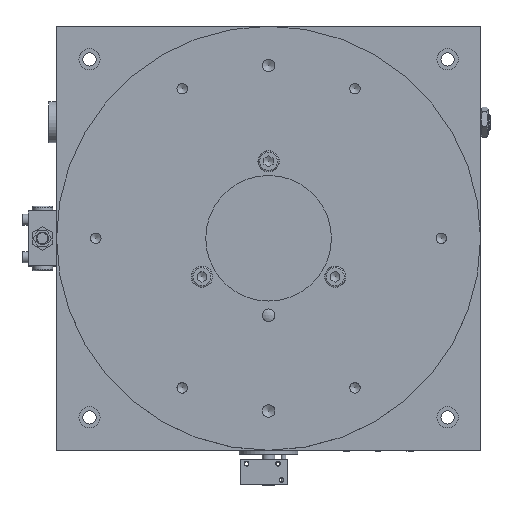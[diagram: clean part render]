
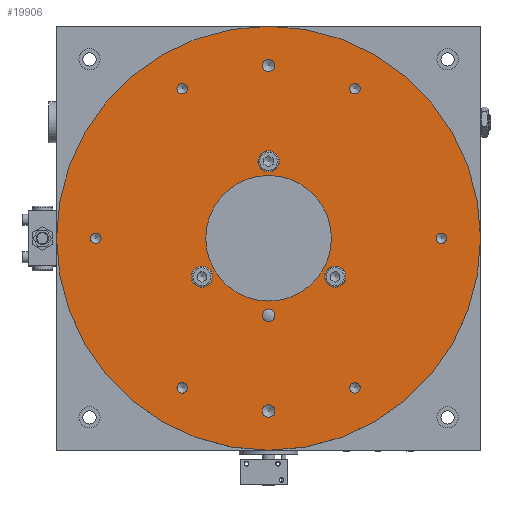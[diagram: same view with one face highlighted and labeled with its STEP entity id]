
A CAD part, top view. The second image highlights one B-rep face of the part: STEP entity #19906.
In plain terms, the highlighted planar face has unit normal (0, 0, 1).
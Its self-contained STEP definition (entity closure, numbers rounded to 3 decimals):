
#3087=PLANE('',#21781);
#4044=FACE_BOUND('',#6521,.T.);
#4045=FACE_BOUND('',#6522,.T.);
#4046=FACE_BOUND('',#6523,.T.);
#4047=FACE_BOUND('',#6524,.T.);
#4048=FACE_BOUND('',#6525,.T.);
#4049=FACE_BOUND('',#6526,.T.);
#4050=FACE_BOUND('',#6527,.T.);
#4051=FACE_BOUND('',#6528,.T.);
#4052=FACE_BOUND('',#6529,.T.);
#4053=FACE_BOUND('',#6530,.T.);
#4054=FACE_BOUND('',#6531,.T.);
#4055=FACE_BOUND('',#6532,.T.);
#4056=FACE_BOUND('',#6533,.T.);
#4892=FACE_OUTER_BOUND('',#6520,.T.);
#6520=EDGE_LOOP('',(#14547));
#6521=EDGE_LOOP('',(#14548));
#6522=EDGE_LOOP('',(#14549));
#6523=EDGE_LOOP('',(#14550));
#6524=EDGE_LOOP('',(#14551));
#6525=EDGE_LOOP('',(#14552));
#6526=EDGE_LOOP('',(#14553));
#6527=EDGE_LOOP('',(#14554));
#6528=EDGE_LOOP('',(#14555));
#6529=EDGE_LOOP('',(#14556));
#6530=EDGE_LOOP('',(#14557));
#6531=EDGE_LOOP('',(#14558));
#6532=EDGE_LOOP('',(#14559));
#6533=EDGE_LOOP('',(#14560));
#8147=CIRCLE('',#21723,3.324);
#8149=CIRCLE('',#21727,3.324);
#8151=CIRCLE('',#21731,3.324);
#8153=CIRCLE('',#21735,3.324);
#8155=CIRCLE('',#21739,3.324);
#8157=CIRCLE('',#21743,3.324);
#8159=CIRCLE('',#21747,4.);
#8161=CIRCLE('',#21751,4.);
#8164=CIRCLE('',#21756,6.75);
#8168=CIRCLE('',#21763,6.75);
#8172=CIRCLE('',#21770,6.75);
#8175=CIRCLE('',#21775,4.);
#8178=CIRCLE('',#21780,40.);
#8179=CIRCLE('',#21782,135.);
#9335=VERTEX_POINT('',#31733);
#9337=VERTEX_POINT('',#31739);
#9339=VERTEX_POINT('',#31745);
#9341=VERTEX_POINT('',#31751);
#9343=VERTEX_POINT('',#31757);
#9345=VERTEX_POINT('',#31763);
#9347=VERTEX_POINT('',#31769);
#9349=VERTEX_POINT('',#31775);
#9352=VERTEX_POINT('',#31783);
#9356=VERTEX_POINT('',#31794);
#9360=VERTEX_POINT('',#31805);
#9363=VERTEX_POINT('',#31813);
#9366=VERTEX_POINT('',#31821);
#9367=VERTEX_POINT('',#31824);
#11323=EDGE_CURVE('',#9335,#9335,#8147,.T.);
#11325=EDGE_CURVE('',#9337,#9337,#8149,.T.);
#11327=EDGE_CURVE('',#9339,#9339,#8151,.T.);
#11329=EDGE_CURVE('',#9341,#9341,#8153,.T.);
#11331=EDGE_CURVE('',#9343,#9343,#8155,.T.);
#11333=EDGE_CURVE('',#9345,#9345,#8157,.T.);
#11335=EDGE_CURVE('',#9347,#9347,#8159,.T.);
#11337=EDGE_CURVE('',#9349,#9349,#8161,.T.);
#11340=EDGE_CURVE('',#9352,#9352,#8164,.T.);
#11344=EDGE_CURVE('',#9356,#9356,#8168,.T.);
#11348=EDGE_CURVE('',#9360,#9360,#8172,.T.);
#11351=EDGE_CURVE('',#9363,#9363,#8175,.T.);
#11354=EDGE_CURVE('',#9366,#9366,#8178,.T.);
#11355=EDGE_CURVE('',#9367,#9367,#8179,.T.);
#14547=ORIENTED_EDGE('',*,*,#11355,.F.);
#14548=ORIENTED_EDGE('',*,*,#11323,.T.);
#14549=ORIENTED_EDGE('',*,*,#11325,.T.);
#14550=ORIENTED_EDGE('',*,*,#11327,.T.);
#14551=ORIENTED_EDGE('',*,*,#11329,.T.);
#14552=ORIENTED_EDGE('',*,*,#11331,.T.);
#14553=ORIENTED_EDGE('',*,*,#11333,.T.);
#14554=ORIENTED_EDGE('',*,*,#11335,.T.);
#14555=ORIENTED_EDGE('',*,*,#11337,.T.);
#14556=ORIENTED_EDGE('',*,*,#11340,.T.);
#14557=ORIENTED_EDGE('',*,*,#11344,.T.);
#14558=ORIENTED_EDGE('',*,*,#11348,.T.);
#14559=ORIENTED_EDGE('',*,*,#11351,.T.);
#14560=ORIENTED_EDGE('',*,*,#11354,.T.);
#19906=ADVANCED_FACE('',(#4892,#4044,#4045,#4046,#4047,#4048,#4049,#4050,
#4051,#4052,#4053,#4054,#4055,#4056),#3087,.T.);
#21723=AXIS2_PLACEMENT_3D('',#31734,#25009,#25010);
#21727=AXIS2_PLACEMENT_3D('',#31740,#25017,#25018);
#21731=AXIS2_PLACEMENT_3D('',#31746,#25025,#25026);
#21735=AXIS2_PLACEMENT_3D('',#31752,#25033,#25034);
#21739=AXIS2_PLACEMENT_3D('',#31758,#25041,#25042);
#21743=AXIS2_PLACEMENT_3D('',#31764,#25049,#25050);
#21747=AXIS2_PLACEMENT_3D('',#31770,#25057,#25058);
#21751=AXIS2_PLACEMENT_3D('',#31776,#25065,#25066);
#21756=AXIS2_PLACEMENT_3D('',#31784,#25075,#25076);
#21763=AXIS2_PLACEMENT_3D('',#31795,#25089,#25090);
#21770=AXIS2_PLACEMENT_3D('',#31806,#25103,#25104);
#21775=AXIS2_PLACEMENT_3D('',#31814,#25113,#25114);
#21780=AXIS2_PLACEMENT_3D('',#31822,#25123,#25124);
#21781=AXIS2_PLACEMENT_3D('',#31823,#25125,#25126);
#21782=AXIS2_PLACEMENT_3D('',#31825,#25127,#25128);
#25009=DIRECTION('center_axis',(0.,0.,
-1.));
#25010=DIRECTION('ref_axis',(1.,0.,0.));
#25017=DIRECTION('center_axis',(0.,0.,
-1.));
#25018=DIRECTION('ref_axis',(1.,0.,0.));
#25025=DIRECTION('center_axis',(0.,0.,
-1.));
#25026=DIRECTION('ref_axis',(1.,0.,0.));
#25033=DIRECTION('center_axis',(0.,0.,
-1.));
#25034=DIRECTION('ref_axis',(1.,0.,0.));
#25041=DIRECTION('center_axis',(0.,0.,
-1.));
#25042=DIRECTION('ref_axis',(1.,0.,0.));
#25049=DIRECTION('center_axis',(0.,0.,
-1.));
#25050=DIRECTION('ref_axis',(1.,0.,0.));
#25057=DIRECTION('center_axis',(0.,0.,
-1.));
#25058=DIRECTION('ref_axis',(1.,0.,0.));
#25065=DIRECTION('center_axis',(0.,0.,
-1.));
#25066=DIRECTION('ref_axis',(1.,0.,0.));
#25075=DIRECTION('center_axis',(0.,0.,
-1.));
#25076=DIRECTION('ref_axis',(1.,0.,0.));
#25089=DIRECTION('center_axis',(0.,0.,
-1.));
#25090=DIRECTION('ref_axis',(1.,0.,0.));
#25103=DIRECTION('center_axis',(0.,0.,
-1.));
#25104=DIRECTION('ref_axis',(1.,0.,0.));
#25113=DIRECTION('center_axis',(0.,0.,
-1.));
#25114=DIRECTION('ref_axis',(1.,0.,0.));
#25123=DIRECTION('center_axis',(0.,0.,
-1.));
#25124=DIRECTION('ref_axis',(1.,0.,0.));
#25125=DIRECTION('center_axis',(0.,0.,
1.));
#25126=DIRECTION('ref_axis',(0.,-1.,0.));
#25127=DIRECTION('center_axis',(0.,0.,
-1.));
#25128=DIRECTION('ref_axis',(1.,0.,0.));
#31733=CARTESIAN_POINT('',(-121.477,-57.175,56.5));
#31734=CARTESIAN_POINT('Origin',(-124.8,-57.175,56.5));
#31739=CARTESIAN_POINT('',(-176.477,38.088,56.5));
#31740=CARTESIAN_POINT('Origin',(-179.8,38.088,56.5));
#31745=CARTESIAN_POINT('',(-121.477,133.35,56.5));
#31746=CARTESIAN_POINT('Origin',(-124.8,133.35,56.5));
#31751=CARTESIAN_POINT('',(-11.477,133.35,56.5));
#31752=CARTESIAN_POINT('Origin',(-14.8,133.35,56.5));
#31757=CARTESIAN_POINT('',(43.523,38.088,56.5));
#31758=CARTESIAN_POINT('Origin',(40.2,38.088,56.5));
#31763=CARTESIAN_POINT('',(-11.477,-57.175,56.5));
#31764=CARTESIAN_POINT('Origin',(-14.8,-57.175,56.5));
#31769=CARTESIAN_POINT('',(-65.8,148.088,56.5));
#31770=CARTESIAN_POINT('Origin',(-69.8,148.088,56.5));
#31775=CARTESIAN_POINT('',(-65.8,-71.912,56.5));
#31776=CARTESIAN_POINT('Origin',(-69.8,-71.912,56.5));
#31783=CARTESIAN_POINT('',(-105.486,13.588,56.5));
#31784=CARTESIAN_POINT('Origin',(-112.236,13.588,56.5));
#31794=CARTESIAN_POINT('',(-63.05,87.088,56.5));
#31795=CARTESIAN_POINT('Origin',(-69.8,87.088,56.5));
#31805=CARTESIAN_POINT('',(-20.615,13.588,56.5));
#31806=CARTESIAN_POINT('Origin',(-27.365,13.588,56.5));
#31813=CARTESIAN_POINT('',(-65.8,-10.912,56.5));
#31814=CARTESIAN_POINT('Origin',(-69.8,-10.912,56.5));
#31821=CARTESIAN_POINT('',(-29.8,38.088,56.5));
#31822=CARTESIAN_POINT('Origin',(-69.8,38.088,56.5));
#31823=CARTESIAN_POINT('Origin',(17.7,38.088,56.5));
#31824=CARTESIAN_POINT('',(65.2,38.088,56.5));
#31825=CARTESIAN_POINT('Origin',(-69.8,38.088,56.5));
